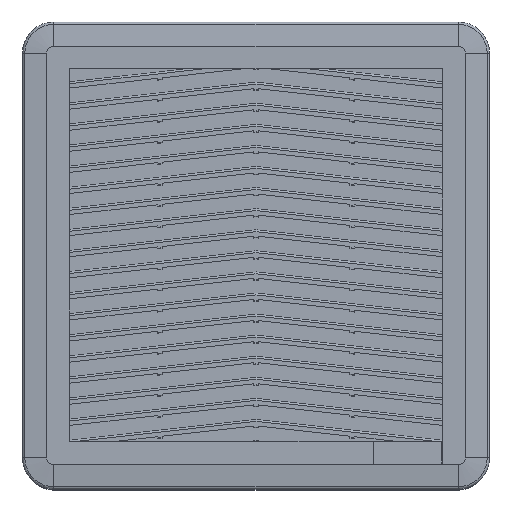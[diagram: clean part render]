
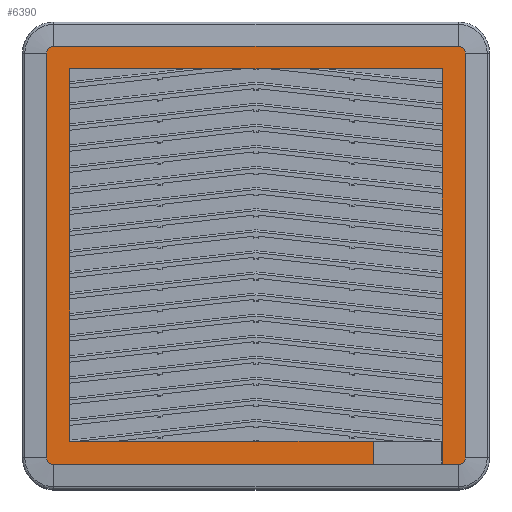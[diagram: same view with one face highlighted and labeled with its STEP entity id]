
A CAD part, top view. The second image highlights one B-rep face of the part: STEP entity #6390.
In plain terms, the highlighted planar face has unit normal (0, 0, 1).
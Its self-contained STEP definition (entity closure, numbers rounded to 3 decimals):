
#217 = EDGE_LOOP ( 'NONE', ( #4645, #7884, #2916, #14412, #2526, #10029 ) ) ;
#379 = VERTEX_POINT ( 'NONE', #8651 ) ;
#475 = DIRECTION ( 'NONE',  ( 1., 0., 0. ) ) ;
#794 = DIRECTION ( 'NONE',  ( 1., 0., 0. ) ) ;
#1000 = ORIENTED_EDGE ( 'NONE', *, *, #8725, .T. ) ;
#1024 = CARTESIAN_POINT ( 'NONE',  ( 0., 65.489, 3. ) ) ;
#1321 = VERTEX_POINT ( 'NONE', #10190 ) ;
#1328 = DIRECTION ( 'NONE',  ( 0., 0., 1. ) ) ;
#1472 = VECTOR ( 'NONE', #6261, 1000. ) ;
#1659 = VERTEX_POINT ( 'NONE', #13141 ) ;
#1736 = CARTESIAN_POINT ( 'NONE',  ( 81.3, 58.863, 3. ) ) ;
#2027 = AXIS2_PLACEMENT_3D ( 'NONE', #5282, #8756, #794 ) ;
#2287 = EDGE_CURVE ( 'NONE', #12777, #7463, #10574, .T. ) ;
#2304 = DIRECTION ( 'NONE',  ( 0., 0., 1. ) ) ;
#2351 = CARTESIAN_POINT ( 'NONE',  ( 91.3, -25.811, 3. ) ) ;
#2479 = CARTESIAN_POINT ( 'NONE',  ( 88.3, 62.489, 3. ) ) ;
#2492 = CARTESIAN_POINT ( 'NONE',  ( -91.3, 65.489, 3. ) ) ;
#2495 = VECTOR ( 'NONE', #4628, 1000. ) ;
#2526 = ORIENTED_EDGE ( 'NONE', *, *, #14529, .F. ) ;
#2566 = VERTEX_POINT ( 'NONE', #13305 ) ;
#2883 = LINE ( 'NONE', #10762, #1472 ) ;
#2916 = ORIENTED_EDGE ( 'NONE', *, *, #4909, .T. ) ;
#3335 = CARTESIAN_POINT ( 'NONE',  ( 88.3, 65.489, 3. ) ) ;
#3365 = LINE ( 'NONE', #4392, #6977 ) ;
#3435 = CIRCLE ( 'NONE', #4607, 3. ) ;
#3446 = LINE ( 'NONE', #12449, #11566 ) ;
#3546 = DIRECTION ( 'NONE',  ( 1., 0., 0. ) ) ;
#3588 = FACE_OUTER_BOUND ( 'NONE', #9243, .T. ) ;
#3734 = CARTESIAN_POINT ( 'NONE',  ( -81.3, 55.689, 3. ) ) ;
#3867 = CARTESIAN_POINT ( 'NONE',  ( -88.3, 65.489, 3. ) ) ;
#3903 = VECTOR ( 'NONE', #14525, 1000. ) ;
#4019 = VERTEX_POINT ( 'NONE', #4409 ) ;
#4236 = VECTOR ( 'NONE', #14567, 1000. ) ;
#4324 = VERTEX_POINT ( 'NONE', #3335 ) ;
#4392 = CARTESIAN_POINT ( 'NONE',  ( -91.3, -25.811, 3. ) ) ;
#4409 = CARTESIAN_POINT ( 'NONE',  ( 91.3, 62.489, 3. ) ) ;
#4490 = VECTOR ( 'NONE', #7303, 1000. ) ;
#4543 = AXIS2_PLACEMENT_3D ( 'NONE', #2492, #10379, #14148 ) ;
#4607 = AXIS2_PLACEMENT_3D ( 'NONE', #2479, #12584, #8165 ) ;
#4628 = DIRECTION ( 'NONE',  ( 0., 1., 0. ) ) ;
#4637 = AXIS2_PLACEMENT_3D ( 'NONE', #6793, #1328, #3546 ) ;
#4645 = ORIENTED_EDGE ( 'NONE', *, *, #9877, .F. ) ;
#4909 = EDGE_CURVE ( 'NONE', #379, #7463, #5078, .T. ) ;
#5078 = LINE ( 'NONE', #9590, #4490 ) ;
#5097 = ORIENTED_EDGE ( 'NONE', *, *, #12102, .T. ) ;
#5131 = DIRECTION ( 'NONE',  ( 0., 1., 0. ) ) ;
#5154 = EDGE_CURVE ( 'NONE', #7227, #14209, #3446, .T. ) ;
#5282 = CARTESIAN_POINT ( 'NONE',  ( 88.3, -114.111, 3. ) ) ;
#5313 = VECTOR ( 'NONE', #5131, 1000. ) ;
#5480 = LINE ( 'NONE', #10069, #4236 ) ;
#5526 = CARTESIAN_POINT ( 'NONE',  ( 51.1, -106.811, 3. ) ) ;
#5691 = CARTESIAN_POINT ( 'NONE',  ( -88.3, 62.489, 3. ) ) ;
#5729 = LINE ( 'NONE', #10371, #13181 ) ;
#6001 = CARTESIAN_POINT ( 'NONE',  ( 81.8, -106.811, 3. ) ) ;
#6043 = EDGE_CURVE ( 'NONE', #1659, #8739, #2883, .T. ) ;
#6261 = DIRECTION ( 'NONE',  ( 1., 0., 0. ) ) ;
#6390 = ADVANCED_FACE ( 'NONE', ( #3588, #8097 ), #12592, .T. ) ;
#6519 = ORIENTED_EDGE ( 'NONE', *, *, #9701, .T. ) ;
#6793 = CARTESIAN_POINT ( 'NONE',  ( -88.3, -114.111, 3. ) ) ;
#6875 = VERTEX_POINT ( 'NONE', #3867 ) ;
#6906 = DIRECTION ( 'NONE',  ( -1., 0., 0. ) ) ;
#6977 = VECTOR ( 'NONE', #12010, 1000. ) ;
#7227 = VERTEX_POINT ( 'NONE', #7323 ) ;
#7303 = DIRECTION ( 'NONE',  ( 0., 1., 0. ) ) ;
#7323 = CARTESIAN_POINT ( 'NONE',  ( 81.3, 55.689, 3. ) ) ;
#7463 = VERTEX_POINT ( 'NONE', #5526 ) ;
#7765 = CARTESIAN_POINT ( 'NONE',  ( 88.3, -117.111, 3. ) ) ;
#7823 = CARTESIAN_POINT ( 'NONE',  ( 81.3, -117.011, 3. ) ) ;
#7884 = ORIENTED_EDGE ( 'NONE', *, *, #14090, .T. ) ;
#8097 = FACE_BOUND ( 'NONE', #217, .T. ) ;
#8157 = EDGE_CURVE ( 'NONE', #13388, #4019, #11568, .T. ) ;
#8165 = DIRECTION ( 'NONE',  ( 1., 0., 0. ) ) ;
#8362 = CARTESIAN_POINT ( 'NONE',  ( 91.3, -114.111, 3. ) ) ;
#8450 = ORIENTED_EDGE ( 'NONE', *, *, #9581, .T. ) ;
#8651 = CARTESIAN_POINT ( 'NONE',  ( 51.1, -117.011, 3. ) ) ;
#8699 = LINE ( 'NONE', #1024, #3903 ) ;
#8725 = EDGE_CURVE ( 'NONE', #6875, #2566, #9068, .T. ) ;
#8739 = VERTEX_POINT ( 'NONE', #7765 ) ;
#8756 = DIRECTION ( 'NONE',  ( 0., 0., 1. ) ) ;
#9068 = CIRCLE ( 'NONE', #13069, 3. ) ;
#9092 = CIRCLE ( 'NONE', #2027, 3. ) ;
#9227 = EDGE_CURVE ( 'NONE', #4324, #6875, #8699, .T. ) ;
#9243 = EDGE_LOOP ( 'NONE', ( #5097, #12753, #12942, #13672, #6519, #11588, #1000, #8450 ) ) ;
#9581 = EDGE_CURVE ( 'NONE', #2566, #1321, #3365, .T. ) ;
#9590 = CARTESIAN_POINT ( 'NONE',  ( 51.1, 65.489, 3. ) ) ;
#9602 = EDGE_CURVE ( 'NONE', #8739, #13388, #9092, .T. ) ;
#9701 = EDGE_CURVE ( 'NONE', #4019, #4324, #3435, .T. ) ;
#9706 = LINE ( 'NONE', #1736, #5313 ) ;
#9877 = EDGE_CURVE ( 'NONE', #10238, #7227, #9706, .T. ) ;
#10029 = ORIENTED_EDGE ( 'NONE', *, *, #5154, .F. ) ;
#10069 = CARTESIAN_POINT ( 'NONE',  ( -81.3, -107.611, 3. ) ) ;
#10190 = CARTESIAN_POINT ( 'NONE',  ( -91.3, -114.111, 3. ) ) ;
#10238 = VERTEX_POINT ( 'NONE', #7823 ) ;
#10371 = CARTESIAN_POINT ( 'NONE',  ( -91.3, -117.011, 3. ) ) ;
#10379 = DIRECTION ( 'NONE',  ( 0., 0., 1. ) ) ;
#10574 = LINE ( 'NONE', #6001, #12240 ) ;
#10762 = CARTESIAN_POINT ( 'NONE',  ( 0., -117.111, 3. ) ) ;
#11144 = DIRECTION ( 'NONE',  ( 1., 0., 0. ) ) ;
#11566 = VECTOR ( 'NONE', #12591, 1000. ) ;
#11568 = LINE ( 'NONE', #2351, #2495 ) ;
#11588 = ORIENTED_EDGE ( 'NONE', *, *, #9227, .T. ) ;
#11953 = CIRCLE ( 'NONE', #4637, 3. ) ;
#12010 = DIRECTION ( 'NONE',  ( 0., -1., 0. ) ) ;
#12102 = EDGE_CURVE ( 'NONE', #1321, #1659, #11953, .T. ) ;
#12240 = VECTOR ( 'NONE', #475, 1000. ) ;
#12449 = CARTESIAN_POINT ( 'NONE',  ( -81.8, 55.689, 3. ) ) ;
#12584 = DIRECTION ( 'NONE',  ( 0., 0., 1. ) ) ;
#12591 = DIRECTION ( 'NONE',  ( -1., 0., 0. ) ) ;
#12592 = PLANE ( 'NONE',  #4543 ) ;
#12753 = ORIENTED_EDGE ( 'NONE', *, *, #6043, .T. ) ;
#12777 = VERTEX_POINT ( 'NONE', #14363 ) ;
#12942 = ORIENTED_EDGE ( 'NONE', *, *, #9602, .T. ) ;
#13069 = AXIS2_PLACEMENT_3D ( 'NONE', #5691, #2304, #11144 ) ;
#13141 = CARTESIAN_POINT ( 'NONE',  ( -88.3, -117.111, 3. ) ) ;
#13181 = VECTOR ( 'NONE', #6906, 1000. ) ;
#13305 = CARTESIAN_POINT ( 'NONE',  ( -91.3, 62.489, 3. ) ) ;
#13388 = VERTEX_POINT ( 'NONE', #8362 ) ;
#13672 = ORIENTED_EDGE ( 'NONE', *, *, #8157, .T. ) ;
#14090 = EDGE_CURVE ( 'NONE', #10238, #379, #5729, .T. ) ;
#14148 = DIRECTION ( 'NONE',  ( 0., -1., 0. ) ) ;
#14209 = VERTEX_POINT ( 'NONE', #3734 ) ;
#14363 = CARTESIAN_POINT ( 'NONE',  ( -81.3, -106.811, 3. ) ) ;
#14412 = ORIENTED_EDGE ( 'NONE', *, *, #2287, .F. ) ;
#14525 = DIRECTION ( 'NONE',  ( -1., 0., 0. ) ) ;
#14529 = EDGE_CURVE ( 'NONE', #14209, #12777, #5480, .T. ) ;
#14567 = DIRECTION ( 'NONE',  ( 0., -1., 0. ) ) ;
